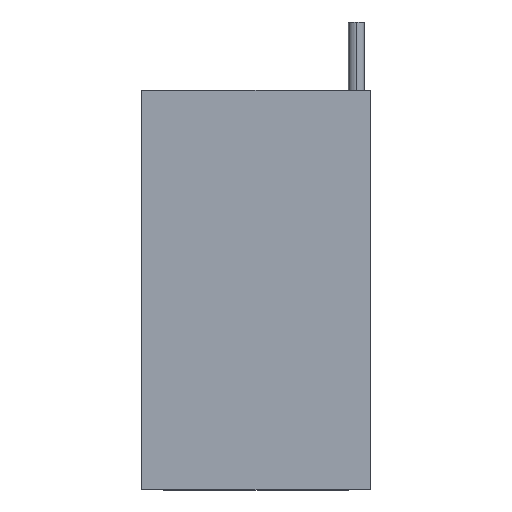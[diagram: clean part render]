
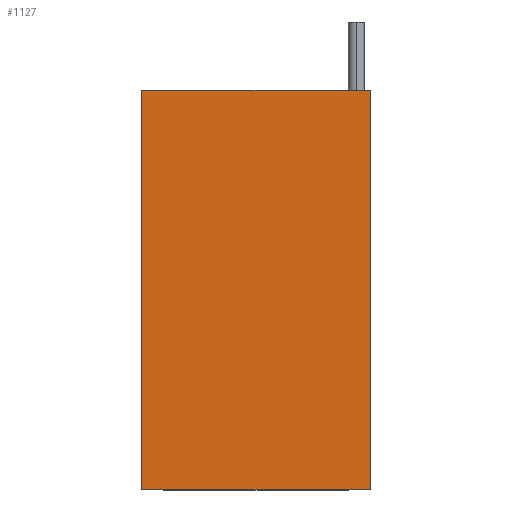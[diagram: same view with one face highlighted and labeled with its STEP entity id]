
A CAD part, top view. The second image highlights one B-rep face of the part: STEP entity #1127.
In plain terms, the highlighted planar face has unit normal (0, 0, 1).
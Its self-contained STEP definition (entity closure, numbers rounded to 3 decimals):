
#9 = CARTESIAN_POINT ( 'NONE',  ( 50., 177., 10.6 ) ) ;
#74 = CARTESIAN_POINT ( 'NONE',  ( 50., 2., 10.6 ) ) ;
#77 = VECTOR ( 'NONE', #1831, 1000. ) ;
#104 = CARTESIAN_POINT ( 'NONE',  ( 69.171, 177., 10.6 ) ) ;
#117 = DIRECTION ( 'NONE',  ( 1., 0., 0. ) ) ;
#249 = EDGE_CURVE ( 'NONE', #2361, #947, #1623, .T. ) ;
#289 = CARTESIAN_POINT ( 'NONE',  ( -50., 177., 10.6 ) ) ;
#383 = DIRECTION ( 'NONE',  ( -1., 0., 0. ) ) ;
#391 = ORIENTED_EDGE ( 'NONE', *, *, #783, .T. ) ;
#440 = VECTOR ( 'NONE', #117, 1000. ) ;
#560 = VECTOR ( 'NONE', #2061, 1000. ) ;
#606 = ORIENTED_EDGE ( 'NONE', *, *, #2875, .T. ) ;
#612 = CARTESIAN_POINT ( 'NONE',  ( 50., 89.5, 10.6 ) ) ;
#624 = PLANE ( 'NONE',  #3019 ) ;
#783 = EDGE_CURVE ( 'NONE', #2871, #2361, #1096, .T. ) ;
#848 = DIRECTION ( 'NONE',  ( 0., 1., 0. ) ) ;
#947 = VERTEX_POINT ( 'NONE', #9 ) ;
#948 = VECTOR ( 'NONE', #848, 1000. ) ;
#1002 = ORIENTED_EDGE ( 'NONE', *, *, #1958, .F. ) ;
#1096 = LINE ( 'NONE', #1594, #440 ) ;
#1117 = DIRECTION ( 'NONE',  ( 0., 0., -1. ) ) ;
#1127 = ADVANCED_FACE ( 'NONE', ( #1976 ), #624, .F. ) ;
#1298 = LINE ( 'NONE', #3041, #948 ) ;
#1471 = ORIENTED_EDGE ( 'NONE', *, *, #249, .T. ) ;
#1594 = CARTESIAN_POINT ( 'NONE',  ( 69.171, 2., 10.6 ) ) ;
#1623 = LINE ( 'NONE', #612, #77 ) ;
#1631 = LINE ( 'NONE', #104, #560 ) ;
#1806 = CARTESIAN_POINT ( 'NONE',  ( -50., 2., 10.6 ) ) ;
#1831 = DIRECTION ( 'NONE',  ( 0., 1., 0. ) ) ;
#1958 = EDGE_CURVE ( 'NONE', #2871, #2675, #1298, .T. ) ;
#1976 = FACE_OUTER_BOUND ( 'NONE', #2753, .T. ) ;
#2061 = DIRECTION ( 'NONE',  ( -1., 0., 0. ) ) ;
#2312 = CARTESIAN_POINT ( 'NONE',  ( 50., 0., 10.6 ) ) ;
#2361 = VERTEX_POINT ( 'NONE', #74 ) ;
#2675 = VERTEX_POINT ( 'NONE', #289 ) ;
#2753 = EDGE_LOOP ( 'NONE', ( #1002, #391, #1471, #606 ) ) ;
#2871 = VERTEX_POINT ( 'NONE', #1806 ) ;
#2875 = EDGE_CURVE ( 'NONE', #947, #2675, #1631, .T. ) ;
#3019 = AXIS2_PLACEMENT_3D ( 'NONE', #2312, #1117, #383 ) ;
#3041 = CARTESIAN_POINT ( 'NONE',  ( -50., 89.5, 10.6 ) ) ;
